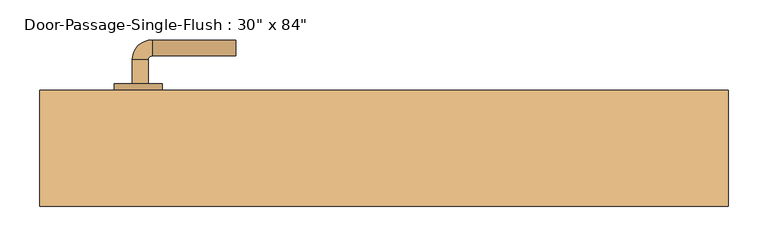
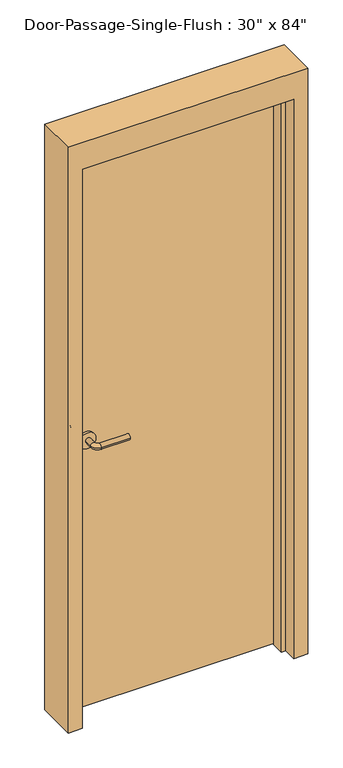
"""IFC4 building model written with IfcOpenShell, lengths in millimetres: door geometry."""

from ifc_helpers import new_model, si_unit, point, frame, frame_2d, origin, origin_with_axes, place, context, project, spatial, polyline, circle_curve, ellipse_curve, trimmed, segment, composite_curve, outline, extrude, faceted_brep, source, transform, mapped, element, save
from ifc_brep_helpers import plane_surface, cylinder_surface, revolved_surface, advanced_brep


def door_b22482a1(model_context):
    return source(origin(), model_context, "Body", "SolidModel", [
        advanced_brep(
        [(-315.990625, 23.75, 1016.0), (-295.990625, 23.75, 1016.0), (-295.990625, -6.25, 1016.0), (-315.990625, -6.25, 1016.0), (-290.990625, -11.25, 1016.0), (-290.990625, -31.25, 1016.0), (-185.990625, -31.25, 1016.0), (-185.990625, -11.25, 1016.0)],
        [
            (0, 1, circle_curve(frame((-305.990625, 23.75, 1016.0), z_axis=(0.0, 1.0, 0.0), x_axis=(1.0, 0.0, 0.0)), 10.0)),
            (1, 0, circle_curve(frame((-305.990625, 23.75, 1016.0), z_axis=(0.0, 1.0, 0.0), x_axis=(1.0, 0.0, 0.0)), 10.0)),
            (1, 2),
            (2, 3, circle_curve(frame((-305.990625, -6.25, 1016.0), z_axis=(0.0, 1.0, 0.0), x_axis=(1.0, 0.0, 0.0)), 10.0)),
            (3, 0),
            (3, 2, circle_curve(frame((-305.990625, -6.25, 1016.0), z_axis=(0.0, 1.0, 0.0), x_axis=(1.0, 0.0, 0.0)), 10.0)),
            (4, 5, circle_curve(frame((-290.990625, -21.25, 1016.0), z_axis=(-1.0, 0.0, 0.0), x_axis=(0.0, 1.0, 0.0)), 10.0)),
            (5, 3, circle_curve(frame((-290.990625, -6.25, 1016.0), z_axis=(0.0, 0.0, -1.0), x_axis=(-1.0, 0.0, 0.0)), 25.0)),
            (2, 4, circle_curve(frame((-290.990625, -6.25, 1016.0), z_axis=(0.0, 0.0, 1.0), x_axis=(-1.0, 0.0, 0.0)), 5.0)),
            (5, 4, circle_curve(frame((-290.990625, -21.25, 1016.0), z_axis=(-1.0, 0.0, 0.0), x_axis=(0.0, 1.0, 0.0)), 10.0)),
            (6, 7, circle_curve(frame((-185.990625, -21.25, 1016.0), z_axis=(1.0, 0.0, 0.0), x_axis=(0.0, 1.0, 0.0)), 10.0)),
            (7, 6, circle_curve(frame((-185.990625, -21.25, 1016.0), z_axis=(1.0, 0.0, 0.0), x_axis=(0.0, 1.0, 0.0)), 10.0)),
            (4, 7),
            (6, 5),
        ],
        [
            plane_surface(frame((-305.990625, 23.75, 1016.0), z_axis=(0.0, 1.0, 0.0), x_axis=(0.0, 0.0, 1.0))),
            cylinder_surface(frame((-305.990625, 23.75, 1016.0), z_axis=(0.0, 1.0, 0.0), x_axis=(1.0, 0.0, 0.0)), 10.0),
            revolved_surface(trimmed(ellipse_curve(frame((-305.990625, -6.25, 1016.0), z_axis=(0.0, -1.0, 0.0), x_axis=(1.0, 0.0, 0.0)), 10.0, 10.0), [point((-315.990625, -6.25, 1016.0))], [point((-295.990625, -6.25, 1016.0))], True, "CARTESIAN"), (-290.990625, -6.25, 1016.0), (0.0, 0.0, -1.0)),
            revolved_surface(trimmed(ellipse_curve(frame((-305.990625, -6.25, 1016.0), z_axis=(0.0, -1.0, 0.0), x_axis=(1.0, 0.0, 0.0)), 10.0, 10.0), [point((-295.990625, -6.25, 1016.0))], [point((-315.990625, -6.25, 1016.0))], True, "CARTESIAN"), (-290.990625, -6.25, 1016.0), (0.0, 0.0, -1.0)),
            plane_surface(frame((-185.990625, -21.25, 1016.0), z_axis=(1.0, 0.0, 0.0), x_axis=(0.0, 0.0, 1.0))),
            cylinder_surface(frame((-290.990625, -21.25, 1016.0), z_axis=(-1.0, 0.0, 0.0), x_axis=(0.0, 1.0, 0.0)), 10.0),
        ],
        [
            (0, [[1, 2]]),
            (1, [[3, 4, 5, -2]]),
            (1, [[-5, 6, -3, -1]]),
            (2, [[7, 8, -4, 9]]),
            (3, [[10, -9, -6, -8]]),
            (4, [[11, 12]]),
            (5, [[13, -11, 14, -7]]),
            (5, [[-14, -12, -13, -10]]),
        ],
    ),
        extrude(outline(composite_curve([segment(trimmed(circle_curve(frame_2d((1016.0, -308.490625)), 30.0), [point((1016.0, -338.490625))], [point((1016.0, -278.490625))], False, "CARTESIAN"), True, "CONTINUOUS"), segment(trimmed(circle_curve(frame_2d((1016.0, -308.490625)), 30.0), [point((1016.0, -278.490625))], [point((1016.0, -338.490625))], False, "CARTESIAN"), True, "CONTINUOUS")], self_intersect=False)), frame((0.0, 23.75, 0.0), z_axis=(0.0, 1.0, 0.0), x_axis=(0.0, 0.0, 1.0)), (0.0, 0.0, 1.0), 8.0),
        advanced_brep(
        [(-315.990625, 84.2, 1016.0), (-295.990625, 84.2, 1016.0), (-315.990625, 114.2, 1016.0), (-295.990625, 114.2, 1016.0), (-290.990625, 119.2, 1016.0), (-290.990625, 139.2, 1016.0), (-185.990625, 139.2, 1016.0), (-185.990625, 119.2, 1016.0)],
        [
            (0, 1, circle_curve(frame((-305.990625, 84.2, 1016.0), z_axis=(0.0, -1.0, 0.0), x_axis=(1.0, 0.0, 0.0)), 10.0)),
            (1, 0, circle_curve(frame((-305.990625, 84.2, 1016.0), z_axis=(0.0, -1.0, 0.0), x_axis=(1.0, 0.0, 0.0)), 10.0)),
            (0, 2),
            (2, 3, circle_curve(frame((-305.990625, 114.2, 1016.0), z_axis=(0.0, -1.0, 0.0), x_axis=(1.0, 0.0, 0.0)), 10.0)),
            (3, 1),
            (3, 2, circle_curve(frame((-305.990625, 114.2, 1016.0), z_axis=(0.0, -1.0, 0.0), x_axis=(1.0, 0.0, 0.0)), 10.0)),
            (4, 3, circle_curve(frame((-290.990625, 114.2, 1016.0), z_axis=(0.0, 0.0, 1.0), x_axis=(-1.0, 0.0, 0.0)), 5.0)),
            (2, 5, circle_curve(frame((-290.990625, 114.2, 1016.0), z_axis=(0.0, 0.0, -1.0), x_axis=(-1.0, 0.0, 0.0)), 25.0)),
            (5, 4, circle_curve(frame((-290.990625, 129.2, 1016.0), z_axis=(-1.0, 0.0, 0.0), x_axis=(0.0, -1.0, 0.0)), 10.0)),
            (4, 5, circle_curve(frame((-290.990625, 129.2, 1016.0), z_axis=(-1.0, 0.0, 0.0), x_axis=(0.0, -1.0, 0.0)), 10.0)),
            (6, 7, circle_curve(frame((-185.990625, 129.2, 1016.0), z_axis=(1.0, 0.0, 0.0), x_axis=(0.0, -1.0, 0.0)), 10.0)),
            (7, 6, circle_curve(frame((-185.990625, 129.2, 1016.0), z_axis=(1.0, 0.0, 0.0), x_axis=(0.0, -1.0, 0.0)), 10.0)),
            (5, 6),
            (7, 4),
        ],
        [
            plane_surface(frame((-305.990625, 84.2, 1016.0), z_axis=(0.0, -1.0, 0.0), x_axis=(0.0, 0.0, 1.0))),
            cylinder_surface(frame((-305.990625, 84.2, 1016.0), z_axis=(0.0, -1.0, 0.0), x_axis=(1.0, 0.0, 0.0)), 10.0),
            revolved_surface(trimmed(ellipse_curve(frame((-305.990625, 114.2, 1016.0), z_axis=(0.0, -1.0, 0.0), x_axis=(1.0, 0.0, 0.0)), 10.0, 10.0), [point((-315.990625, 114.2, 1016.0))], [point((-295.990625, 114.2, 1016.0))], True, "CARTESIAN"), (-290.990625, 114.2, 1016.0), (0.0, 0.0, -1.0)),
            revolved_surface(trimmed(ellipse_curve(frame((-305.990625, 114.2, 1016.0), z_axis=(0.0, -1.0, 0.0), x_axis=(1.0, 0.0, 0.0)), 10.0, 10.0), [point((-295.990625, 114.2, 1016.0))], [point((-315.990625, 114.2, 1016.0))], True, "CARTESIAN"), (-290.990625, 114.2, 1016.0), (0.0, 0.0, -1.0)),
            plane_surface(frame((-185.990625, 129.2, 1016.0), z_axis=(1.0, 0.0, 0.0), x_axis=(0.0, 0.0, 1.0))),
            cylinder_surface(frame((-290.990625, 129.2, 1016.0), z_axis=(-1.0, 0.0, 0.0), x_axis=(0.0, -1.0, 0.0)), 10.0),
        ],
        [
            (0, [[1, 2]]),
            (1, [[-1, 3, 4, 5]]),
            (1, [[-2, -5, 6, -3]]),
            (2, [[7, -4, 8, 9]]),
            (3, [[-8, -6, -7, 10]]),
            (4, [[11, 12]]),
            (5, [[-9, 13, -12, 14]]),
            (5, [[-10, -14, -11, -13]]),
        ],
    ),
        extrude(outline(composite_curve([segment(trimmed(circle_curve(frame_2d((1016.0, -308.490625)), 30.0), [point((1016.0, -338.490625))], [point((1016.0, -278.490625))], False, "CARTESIAN"), True, "CONTINUOUS"), segment(trimmed(circle_curve(frame_2d((1016.0, -308.490625)), 30.0), [point((1016.0, -278.490625))], [point((1016.0, -338.490625))], False, "CARTESIAN"), True, "CONTINUOUS")], self_intersect=False)), frame((0.0, 76.2, 0.0), z_axis=(0.0, 1.0, 0.0), x_axis=(0.0, 0.0, 1.0)), (0.0, 0.0, 1.0), 8.0),
        faceted_brep([(381.0, 26.9875, 0.0), (381.0, 76.2, 0.0), (431.8, 76.2, 0.0), (431.8, -69.85, 0.0), (381.0, -69.85, 0.0), (381.0, -20.6375, 0.0), (365.125, -20.6375, 0.0), (365.125, 26.9875, 0.0), (381.0, 26.9875, 2133.6), (381.0, 76.2, 2133.6), (-381.0, 76.2, 2133.6), (-381.0, 76.2, 0.0), (-431.8, 76.2, 0.0), (-431.8, 76.2, 2235.2), (431.8, 76.2, 2235.2), (431.8, -69.85, 2235.2), (-431.8, -69.85, 2235.2), (-431.8, -69.85, 0.0), (-381.0, -69.85, 0.0), (-381.0, -69.85, 2133.6), (381.0, -69.85, 2133.6), (381.0, -20.6375, 2133.6), (-381.0, -20.6375, 2133.6), (-381.0, -20.6375, 0.0), (-365.125, -20.6375, 0.0), (-365.125, -20.6375, 2117.725), (365.125, -20.6375, 2117.725), (365.125, 26.9875, 2117.725), (-365.125, 26.9875, 2117.725), (-365.125, 26.9875, 0.0), (-381.0, 26.9875, 0.0), (-381.0, 26.9875, 2133.6)], [[[0, 1, 2, 3, 4, 5, 6, 7]], [[1, 0, 8, 9]], [[2, 1, 9, 10, 11, 12, 13, 14]], [[3, 2, 14, 15]], [[4, 3, 15, 16, 17, 18, 19, 20]], [[5, 4, 20, 21]], [[6, 5, 21, 22, 23, 24, 25, 26]], [[7, 6, 26, 27]], [[0, 7, 27, 28, 29, 30, 31, 8]], [[9, 8, 31, 10]], [[20, 19, 22, 21]], [[26, 25, 28, 27]], [[12, 11, 30, 29, 24, 23, 18, 17]], [[11, 10, 31, 30]], [[13, 12, 17, 16]], [[19, 18, 23, 22]], [[25, 24, 29, 28]], [[15, 14, 13, 16]]]),
        extrude(outline(polyline([(381.0, 31.75), (-381.0, 31.75), (-381.0, 76.2), (381.0, 76.2), (381.0, 31.75)])), origin_with_axes(), (0.0, 0.0, 1.0), 2133.6),
    ])


if __name__ == "__main__":
    model = new_model("IFC4")
    model_context = context("Model", 3, world=origin())
    ifc_project = project(units=[si_unit("LENGTHUNIT", "METRE", prefix="MILLI")], contexts=[model_context])
    site = spatial("IfcSite", under=ifc_project)
    building = spatial("IfcBuilding", under=site)
    placement = place(None, origin())
    door_shape = door_b22482a1(model_context)
    element("IfcDoor", 1, ObjectType="Door-Passage-Single-Flush : 30\" x 84\"", at=placement, inside=building, context=model_context, shape_type="MappedRepresentation", body=[
        mapped(door_shape, transform((0.0, 0.0, 0.0), x_axis=(1.0, 0.0, 0.0), y_axis=(0.0, 1.0, 0.0), z_axis=(0.0, 0.0, 1.0))),
    ])
    save(model, "model.ifc")
